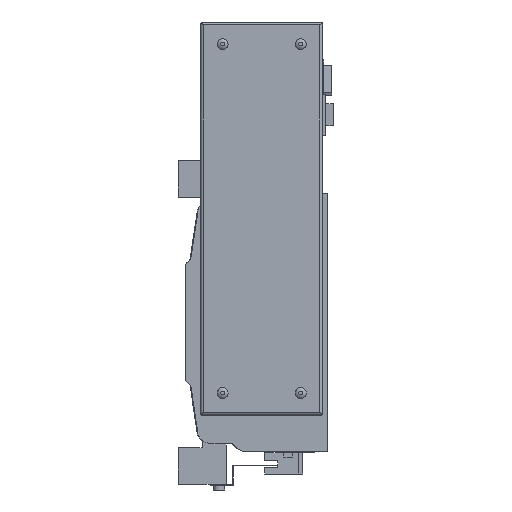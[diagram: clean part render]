
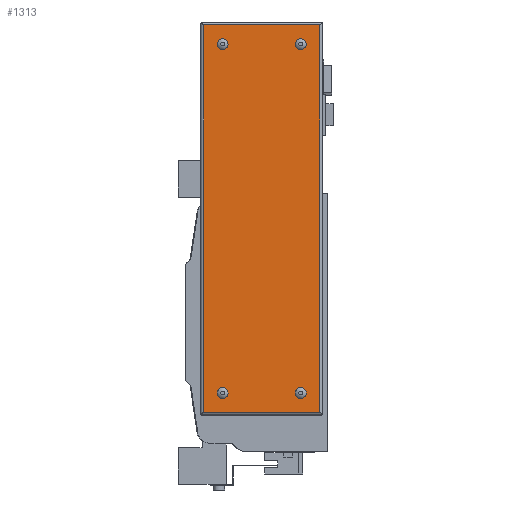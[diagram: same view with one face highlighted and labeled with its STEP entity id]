
A CAD part, left-side view. The second image highlights one B-rep face of the part: STEP entity #1313.
In plain terms, the highlighted planar face has unit normal (-1, 0, 0).
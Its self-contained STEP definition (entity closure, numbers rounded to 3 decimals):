
#1313 = ADVANCED_FACE( '', ( #2869, #2870, #2871, #2872, #2873 ), #2874, .F. );
#2869 = FACE_BOUND( '', #4772, .T. );
#2870 = FACE_BOUND( '', #4773, .T. );
#2871 = FACE_BOUND( '', #4774, .T. );
#2872 = FACE_BOUND( '', #4775, .T. );
#2873 = FACE_OUTER_BOUND( '', #4776, .T. );
#2874 = PLANE( '', #4777 );
#4772 = EDGE_LOOP( '', ( #8136 ) );
#4773 = EDGE_LOOP( '', ( #8137 ) );
#4774 = EDGE_LOOP( '', ( #8138 ) );
#4775 = EDGE_LOOP( '', ( #8139 ) );
#4776 = EDGE_LOOP( '', ( #8140, #8141, #8142, #8143 ) );
#4777 = AXIS2_PLACEMENT_3D( '', #8144, #8145, #8146 );
#8136 = ORIENTED_EDGE( '', *, *, #12066, .F. );
#8137 = ORIENTED_EDGE( '', *, *, #11287, .F. );
#8138 = ORIENTED_EDGE( '', *, *, #11242, .F. );
#8139 = ORIENTED_EDGE( '', *, *, #11159, .F. );
#8140 = ORIENTED_EDGE( '', *, *, #11403, .F. );
#8141 = ORIENTED_EDGE( '', *, *, #12067, .F. );
#8142 = ORIENTED_EDGE( '', *, *, #12068, .T. );
#8143 = ORIENTED_EDGE( '', *, *, #12069, .T. );
#8144 = CARTESIAN_POINT( '', ( -66., 0., 0. ) );
#8145 = DIRECTION( '', ( 1., 0., 0. ) );
#8146 = DIRECTION( '', ( 0., 0., -1. ) );
#11159 = EDGE_CURVE( '', #13389, #13389, #13390, .F. );
#11242 = EDGE_CURVE( '', #13529, #13529, #13530, .F. );
#11287 = EDGE_CURVE( '', #13607, #13607, #13608, .F. );
#11403 = EDGE_CURVE( '', #13792, #13794, #13795, .T. );
#12066 = EDGE_CURVE( '', #14819, #14819, #14820, .F. );
#12067 = EDGE_CURVE( '', #14821, #13792, #14822, .T. );
#12068 = EDGE_CURVE( '', #14821, #14823, #14824, .T. );
#12069 = EDGE_CURVE( '', #14823, #13794, #14825, .T. );
#13389 = VERTEX_POINT( '', #16532 );
#13390 = CIRCLE( '', #16533, 3.7 );
#13529 = VERTEX_POINT( '', #16731 );
#13530 = CIRCLE( '', #16732, 3.7 );
#13607 = VERTEX_POINT( '', #16837 );
#13608 = CIRCLE( '', #16838, 3.7 );
#13792 = VERTEX_POINT( '', #17090 );
#13794 = VERTEX_POINT( '', #17092 );
#13795 = LINE( '', #17093, #17094 );
#14819 = VERTEX_POINT( '', #18514 );
#14820 = CIRCLE( '', #18515, 3.7 );
#14821 = VERTEX_POINT( '', #18516 );
#14822 = LINE( '', #18517, #18518 );
#14823 = VERTEX_POINT( '', #18519 );
#14824 = LINE( '', #18520, #18521 );
#14825 = LINE( '', #18522, #18523 );
#16532 = CARTESIAN_POINT( '', ( -66., 71.5, -51.7 ) );
#16533 = AXIS2_PLACEMENT_3D( '', #20126, #20127, #20128 );
#16731 = CARTESIAN_POINT( '', ( -66., 71.5, 185.3 ) );
#16732 = AXIS2_PLACEMENT_3D( '', #20200, #20201, #20202 );
#16837 = CARTESIAN_POINT( '', ( -66., 18.5, -51.7 ) );
#16838 = AXIS2_PLACEMENT_3D( '', #20252, #20253, #20254 );
#17090 = CARTESIAN_POINT( '', ( -66., 5.5, 202. ) );
#17092 = CARTESIAN_POINT( '', ( -66., 5.5, -61. ) );
#17093 = CARTESIAN_POINT( '', ( -66., 5.5, 267. ) );
#17094 = VECTOR( '', #20392, 1000. );
#18514 = CARTESIAN_POINT( '', ( -66., 18.5, 185.3 ) );
#18515 = AXIS2_PLACEMENT_3D( '', #21119, #21120, #21121 );
#18516 = CARTESIAN_POINT( '', ( -66., 84.5, 202. ) );
#18517 = CARTESIAN_POINT( '', ( -66., 267., 202. ) );
#18518 = VECTOR( '', #21122, 1000. );
#18519 = CARTESIAN_POINT( '', ( -66., 84.5, -61. ) );
#18520 = CARTESIAN_POINT( '', ( -66., 84.5, 267. ) );
#18521 = VECTOR( '', #21123, 1000. );
#18522 = CARTESIAN_POINT( '', ( -66., 267., -61. ) );
#18523 = VECTOR( '', #21124, 1000. );
#20126 = CARTESIAN_POINT( '', ( -66., 71.5, -48. ) );
#20127 = DIRECTION( '', ( 1., 0., 0. ) );
#20128 = DIRECTION( '', ( 0., 0., -1. ) );
#20200 = CARTESIAN_POINT( '', ( -66., 71.5, 189. ) );
#20201 = DIRECTION( '', ( 1., 0., 0. ) );
#20202 = DIRECTION( '', ( 0., 0., -1. ) );
#20252 = CARTESIAN_POINT( '', ( -66., 18.5, -48. ) );
#20253 = DIRECTION( '', ( 1., 0., 0. ) );
#20254 = DIRECTION( '', ( 0., 0., -1. ) );
#20392 = DIRECTION( '', ( 0., 0., -1. ) );
#21119 = CARTESIAN_POINT( '', ( -66., 18.5, 189. ) );
#21120 = DIRECTION( '', ( 1., 0., 0. ) );
#21121 = DIRECTION( '', ( 0., 0., -1. ) );
#21122 = DIRECTION( '', ( 0., -1., 0. ) );
#21123 = DIRECTION( '', ( 0., 0., -1. ) );
#21124 = DIRECTION( '', ( 0., -1., 0. ) );
